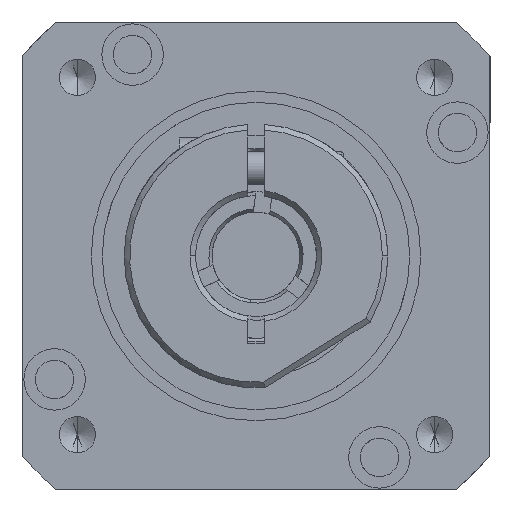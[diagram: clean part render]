
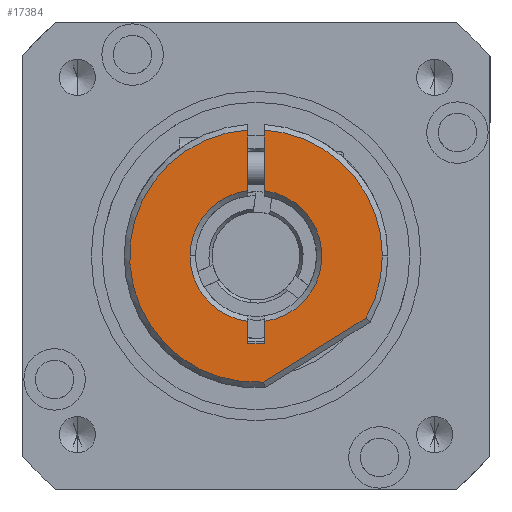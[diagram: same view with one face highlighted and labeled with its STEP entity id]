
A CAD part, left-side view. The second image highlights one B-rep face of the part: STEP entity #17384.
In plain terms, the highlighted planar face has unit normal (-1, 0, 0) as drawn and (0, -1, 0) by its records, which use the part's own axes.
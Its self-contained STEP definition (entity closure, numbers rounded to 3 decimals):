
#296 = VERTEX_POINT ( 'NONE', #16282 ) ;
#560 = VERTEX_POINT ( 'NONE', #18587 ) ;
#734 = LINE ( 'NONE', #18871, #7178 ) ;
#949 = DIRECTION ( 'NONE',  ( -0.53, 0., 0.848 ) ) ;
#1018 = CARTESIAN_POINT ( 'NONE',  ( -5.953, -4., -0.75 ) ) ;
#1262 = CIRCLE ( 'NONE', #14636, 6. ) ;
#1324 = FACE_OUTER_BOUND ( 'NONE', #5860, .T. ) ;
#1588 = CIRCLE ( 'NONE', #13097, 11.5 ) ;
#2074 = CARTESIAN_POINT ( 'NONE',  ( 11.479, -4., 0.689 ) ) ;
#2179 = DIRECTION ( 'NONE',  ( 0., 0., -1. ) ) ;
#2298 = VERTEX_POINT ( 'NONE', #2074 ) ;
#2766 = ORIENTED_EDGE ( 'NONE', *, *, #15388, .F. ) ;
#2768 = VERTEX_POINT ( 'NONE', #15308 ) ;
#2951 = AXIS2_PLACEMENT_3D ( 'NONE', #15128, #6831, #4768 ) ;
#3015 = CARTESIAN_POINT ( 'NONE',  ( 5.585, -4., 10.122 ) ) ;
#3106 = CIRCLE ( 'NONE', #10325, 6. ) ;
#3588 = VERTEX_POINT ( 'NONE', #12191 ) ;
#3833 = VERTEX_POINT ( 'NONE', #19222 ) ;
#4231 = DIRECTION ( 'NONE',  ( 0., -1., 0. ) ) ;
#4768 = DIRECTION ( 'NONE',  ( 0., 0., -1. ) ) ;
#4914 = CARTESIAN_POINT ( 'NONE',  ( 0., -4., -6. ) ) ;
#4945 = AXIS2_PLACEMENT_3D ( 'NONE', #12792, #10695, #8609 ) ;
#5068 = LINE ( 'NONE', #3015, #15184 ) ;
#5124 = DIRECTION ( 'NONE',  ( 0., 0., -1. ) ) ;
#5403 = EDGE_CURVE ( 'NONE', #3833, #296, #734, .T. ) ;
#5556 = DIRECTION ( 'NONE',  ( 1., 0., 0. ) ) ;
#5860 = EDGE_LOOP ( 'NONE', ( #12651, #12384, #8571, #11792, #12968, #9323, #13437, #12126, #2766, #16246, #18662, #12876 ) ) ;
#6171 = AXIS2_PLACEMENT_3D ( 'NONE', #6292, #4231, #2179 ) ;
#6292 = CARTESIAN_POINT ( 'NONE',  ( 0., -4., 0. ) ) ;
#6810 = VERTEX_POINT ( 'NONE', #18185 ) ;
#6831 = DIRECTION ( 'NONE',  ( 0., -1., 0. ) ) ;
#6887 = CARTESIAN_POINT ( 'NONE',  ( -11.476, -4., 0.75 ) ) ;
#7178 = VECTOR ( 'NONE', #16810, 1000. ) ;
#7184 = DIRECTION ( 'NONE',  ( 0., 1., 0. ) ) ;
#7502 = VERTEX_POINT ( 'NONE', #1018 ) ;
#7639 = CARTESIAN_POINT ( 'NONE',  ( 5.5, -4., -0.75 ) ) ;
#7739 = EDGE_CURVE ( 'NONE', #13581, #19712, #12257, .T. ) ;
#7755 = CARTESIAN_POINT ( 'NONE',  ( 0., -4., 11.5 ) ) ;
#8033 = DIRECTION ( 'NONE',  ( 1., 0., 0. ) ) ;
#8571 = ORIENTED_EDGE ( 'NONE', *, *, #16172, .T. ) ;
#8609 = DIRECTION ( 'NONE',  ( 0., 0., -1. ) ) ;
#8905 = DIRECTION ( 'NONE',  ( -1., 0., 0. ) ) ;
#9144 = EDGE_CURVE ( 'NONE', #6810, #11276, #3106, .T. ) ;
#9323 = ORIENTED_EDGE ( 'NONE', *, *, #10534, .T. ) ;
#9484 = EDGE_CURVE ( 'NONE', #2768, #2298, #1588, .T. ) ;
#9674 = VECTOR ( 'NONE', #8033, 1000. ) ;
#9720 = LINE ( 'NONE', #7639, #11229 ) ;
#10096 = CARTESIAN_POINT ( 'NONE',  ( 5.5, -4., -0.75 ) ) ;
#10325 = AXIS2_PLACEMENT_3D ( 'NONE', #11356, #7184, #5124 ) ;
#10534 = EDGE_CURVE ( 'NONE', #2298, #3588, #5068, .T. ) ;
#10605 = DIRECTION ( 'NONE',  ( 0., 0., -1. ) ) ;
#10695 = DIRECTION ( 'NONE',  ( 0., -1., 0. ) ) ;
#10988 = CARTESIAN_POINT ( 'NONE',  ( 5.5, -4., 0.75 ) ) ;
#11229 = VECTOR ( 'NONE', #5556, 1000. ) ;
#11276 = VERTEX_POINT ( 'NONE', #4914 ) ;
#11356 = CARTESIAN_POINT ( 'NONE',  ( 0., -4., 0. ) ) ;
#11792 = ORIENTED_EDGE ( 'NONE', *, *, #12500, .F. ) ;
#11826 = DIRECTION ( 'NONE',  ( 0., 0., -1. ) ) ;
#11990 = EDGE_CURVE ( 'NONE', #3588, #13581, #17556, .T. ) ;
#12126 = ORIENTED_EDGE ( 'NONE', *, *, #7739, .T. ) ;
#12191 = CARTESIAN_POINT ( 'NONE',  ( 5.651, -4., 10.016 ) ) ;
#12257 = CIRCLE ( 'NONE', #6171, 11.5 ) ;
#12384 = ORIENTED_EDGE ( 'NONE', *, *, #9144, .T. ) ;
#12500 = EDGE_CURVE ( 'NONE', #2768, #7502, #14261, .T. ) ;
#12651 = ORIENTED_EDGE ( 'NONE', *, *, #17459, .F. ) ;
#12690 = DIRECTION ( 'NONE',  ( -1., 0., 0. ) ) ;
#12704 = DIRECTION ( 'NONE',  ( 0., 1., 0. ) ) ;
#12792 = CARTESIAN_POINT ( 'NONE',  ( 5.5, -4., 0. ) ) ;
#12876 = ORIENTED_EDGE ( 'NONE', *, *, #5403, .F. ) ;
#12968 = ORIENTED_EDGE ( 'NONE', *, *, #9484, .T. ) ;
#13075 = LINE ( 'NONE', #10988, #17478 ) ;
#13097 = AXIS2_PLACEMENT_3D ( 'NONE', #15968, #13906, #11826 ) ;
#13437 = ORIENTED_EDGE ( 'NONE', *, *, #11990, .T. ) ;
#13581 = VERTEX_POINT ( 'NONE', #7755 ) ;
#13906 = DIRECTION ( 'NONE',  ( 0., -1., 0. ) ) ;
#14261 = LINE ( 'NONE', #10096, #9674 ) ;
#14636 = AXIS2_PLACEMENT_3D ( 'NONE', #14752, #12704, #10605 ) ;
#14712 = VERTEX_POINT ( 'NONE', #18546 ) ;
#14744 = CARTESIAN_POINT ( 'NONE',  ( 5.5, -4., 0.75 ) ) ;
#14752 = CARTESIAN_POINT ( 'NONE',  ( 0., -4., 0. ) ) ;
#14841 = PLANE ( 'NONE',  #4945 ) ;
#15128 = CARTESIAN_POINT ( 'NONE',  ( 0., -4., 0. ) ) ;
#15150 = DIRECTION ( 'NONE',  ( 0., 0., -1. ) ) ;
#15184 = VECTOR ( 'NONE', #949, 1000. ) ;
#15308 = CARTESIAN_POINT ( 'NONE',  ( -11.476, -4., -0.75 ) ) ;
#15388 = EDGE_CURVE ( 'NONE', #560, #19712, #16820, .T. ) ;
#15968 = CARTESIAN_POINT ( 'NONE',  ( 0., -4., 0. ) ) ;
#16172 = EDGE_CURVE ( 'NONE', #11276, #7502, #18094, .T. ) ;
#16246 = ORIENTED_EDGE ( 'NONE', *, *, #18150, .T. ) ;
#16282 = CARTESIAN_POINT ( 'NONE',  ( 8., -4., 0.75 ) ) ;
#16467 = EDGE_CURVE ( 'NONE', #296, #14712, #13075, .T. ) ;
#16810 = DIRECTION ( 'NONE',  ( 0., 0., 1. ) ) ;
#16820 = LINE ( 'NONE', #14744, #19642 ) ;
#17227 = DIRECTION ( 'NONE',  ( 0., 1., 0. ) ) ;
#17384 = ADVANCED_FACE ( 'NONE', ( #1324 ), #14841, .T. ) ;
#17459 = EDGE_CURVE ( 'NONE', #6810, #3833, #9720, .T. ) ;
#17478 = VECTOR ( 'NONE', #8905, 1000. ) ;
#17556 = CIRCLE ( 'NONE', #2951, 11.5 ) ;
#18094 = CIRCLE ( 'NONE', #19390, 6. ) ;
#18150 = EDGE_CURVE ( 'NONE', #560, #14712, #1262, .T. ) ;
#18185 = CARTESIAN_POINT ( 'NONE',  ( 5.953, -4., -0.75 ) ) ;
#18546 = CARTESIAN_POINT ( 'NONE',  ( 5.953, -4., 0.75 ) ) ;
#18587 = CARTESIAN_POINT ( 'NONE',  ( -5.953, -4., 0.75 ) ) ;
#18662 = ORIENTED_EDGE ( 'NONE', *, *, #16467, .F. ) ;
#18871 = CARTESIAN_POINT ( 'NONE',  ( 8., -4., 0. ) ) ;
#19222 = CARTESIAN_POINT ( 'NONE',  ( 8., -4., -0.75 ) ) ;
#19287 = CARTESIAN_POINT ( 'NONE',  ( 0., -4., 0. ) ) ;
#19390 = AXIS2_PLACEMENT_3D ( 'NONE', #19287, #17227, #15150 ) ;
#19642 = VECTOR ( 'NONE', #12690, 1000. ) ;
#19712 = VERTEX_POINT ( 'NONE', #6887 ) ;
